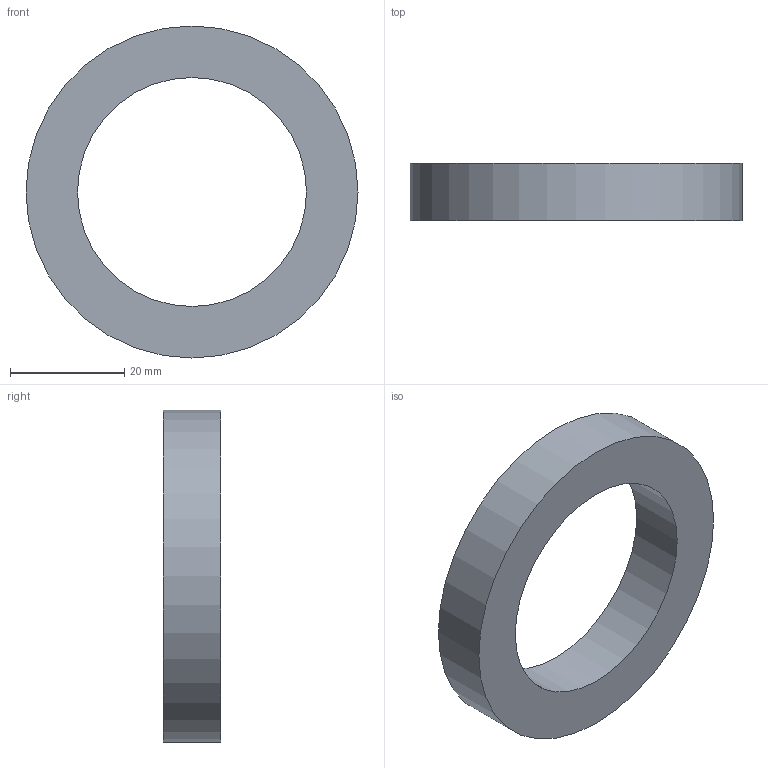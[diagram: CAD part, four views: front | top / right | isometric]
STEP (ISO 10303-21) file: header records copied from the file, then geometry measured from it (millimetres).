
FILE_DESCRIPTION(('Open CASCADE Model'),'2;1');
FILE_NAME('Open CASCADE Shape Model','2026-10-17T16:45:04',('Author'),( 'Open CASCADE'),'Open CASCADE STEP processor 8.0','build123d', 'Unknown');
FILE_SCHEMA(('AUTOMOTIVE_DESIGN { 1 0 10303 214 1 1 1 1 }'));
Length unit declared in the file: millimetre
Products named in the file (1): COMPOUND
Bounding box: 58 x 10 x 58 mm (x, y, z)
Volume: 13854.4 mm3; surface area: 5849.6 mm2
Topology: 1 solids, 1 shells, 4 faces, 6 edges, 4 vertices
Faces by surface type: cylinder 2, plane 2
Full cylindrical faces by diameter (mm): 40 x1, 58 x1
Entity records: 186 total; most frequent: DIRECTION 32, CARTESIAN_POINT 27, ORIENTED_EDGE 12, PCURVE 12, DEFINITIONAL_REPRESENTATION 12, LINE 10, VECTOR 10, AXIS2_PLACEMENT_3D 9
